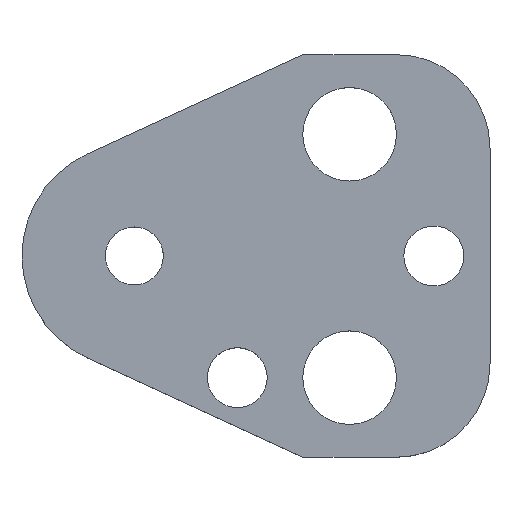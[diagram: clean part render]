
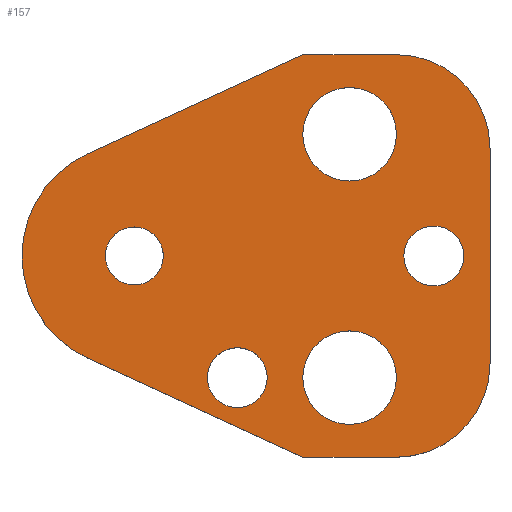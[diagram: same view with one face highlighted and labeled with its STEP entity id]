
A CAD part, top view. The second image highlights one B-rep face of the part: STEP entity #157.
In plain terms, the highlighted planar face has unit normal (0, 0, 1).
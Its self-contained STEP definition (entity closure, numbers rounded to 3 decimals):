
#103=FACE_BOUND('',#207,.T.);
#104=FACE_BOUND('',#208,.T.);
#105=FACE_BOUND('',#209,.T.);
#106=FACE_BOUND('',#210,.T.);
#107=FACE_BOUND('',#211,.T.);
#108=FACE_BOUND('',#212,.T.);
#122=CIRCLE('',#480,10.);
#124=CIRCLE('',#484,10.);
#127=CIRCLE('',#490,12.);
#138=CIRCLE('',#503,3.2);
#139=CIRCLE('',#504,3.2);
#140=CIRCLE('',#505,5.);
#141=CIRCLE('',#506,5.);
#142=CIRCLE('',#507,5.);
#143=CIRCLE('',#508,5.);
#144=CIRCLE('',#509,3.2);
#145=CIRCLE('',#510,3.2);
#146=CIRCLE('',#511,3.1);
#147=CIRCLE('',#512,3.1);
#157=ADVANCED_FACE('',(#103,#104,#105,#106,#107,#108),#174,.T.);
#174=PLANE('',#513);
#207=EDGE_LOOP('',(#273,#274,#275,#276,#277,#278,#279,#280));
#208=EDGE_LOOP('',(#281,#282));
#209=EDGE_LOOP('',(#283,#284));
#210=EDGE_LOOP('',(#285,#286));
#211=EDGE_LOOP('',(#287,#288));
#212=EDGE_LOOP('',(#289,#290));
#273=ORIENTED_EDGE('',*,*,#368,.T.);
#274=ORIENTED_EDGE('',*,*,#372,.T.);
#275=ORIENTED_EDGE('',*,*,#375,.T.);
#276=ORIENTED_EDGE('',*,*,#378,.T.);
#277=ORIENTED_EDGE('',*,*,#381,.T.);
#278=ORIENTED_EDGE('',*,*,#384,.T.);
#279=ORIENTED_EDGE('',*,*,#387,.T.);
#280=ORIENTED_EDGE('',*,*,#390,.T.);
#281=ORIENTED_EDGE('',*,*,#401,.T.);
#282=ORIENTED_EDGE('',*,*,#402,.T.);
#283=ORIENTED_EDGE('',*,*,#403,.T.);
#284=ORIENTED_EDGE('',*,*,#404,.T.);
#285=ORIENTED_EDGE('',*,*,#405,.T.);
#286=ORIENTED_EDGE('',*,*,#406,.T.);
#287=ORIENTED_EDGE('',*,*,#407,.T.);
#288=ORIENTED_EDGE('',*,*,#408,.T.);
#289=ORIENTED_EDGE('',*,*,#409,.T.);
#290=ORIENTED_EDGE('',*,*,#410,.T.);
#332=VERTEX_POINT('',#649);
#333=VERTEX_POINT('',#651);
#336=VERTEX_POINT('',#658);
#338=VERTEX_POINT('',#664);
#340=VERTEX_POINT('',#670);
#342=VERTEX_POINT('',#676);
#344=VERTEX_POINT('',#682);
#346=VERTEX_POINT('',#688);
#357=VERTEX_POINT('',#717);
#358=VERTEX_POINT('',#718);
#359=VERTEX_POINT('',#721);
#360=VERTEX_POINT('',#722);
#361=VERTEX_POINT('',#725);
#362=VERTEX_POINT('',#726);
#363=VERTEX_POINT('',#729);
#364=VERTEX_POINT('',#730);
#365=VERTEX_POINT('',#733);
#366=VERTEX_POINT('',#734);
#368=EDGE_CURVE('',#333,#332,#422,.T.);
#372=EDGE_CURVE('',#332,#336,#426,.T.);
#375=EDGE_CURVE('',#336,#338,#122,.T.);
#378=EDGE_CURVE('',#338,#340,#430,.T.);
#381=EDGE_CURVE('',#340,#342,#124,.T.);
#384=EDGE_CURVE('',#342,#344,#434,.T.);
#387=EDGE_CURVE('',#344,#346,#437,.T.);
#390=EDGE_CURVE('',#346,#333,#127,.T.);
#401=EDGE_CURVE('',#357,#358,#138,.T.);
#402=EDGE_CURVE('',#358,#357,#139,.T.);
#403=EDGE_CURVE('',#359,#360,#140,.T.);
#404=EDGE_CURVE('',#360,#359,#141,.T.);
#405=EDGE_CURVE('',#361,#362,#142,.T.);
#406=EDGE_CURVE('',#362,#361,#143,.T.);
#407=EDGE_CURVE('',#363,#364,#144,.T.);
#408=EDGE_CURVE('',#364,#363,#145,.T.);
#409=EDGE_CURVE('',#365,#366,#146,.T.);
#410=EDGE_CURVE('',#366,#365,#147,.T.);
#422=LINE('',#650,#450);
#426=LINE('',#659,#454);
#430=LINE('',#671,#458);
#434=LINE('',#683,#462);
#437=LINE('',#689,#465);
#450=VECTOR('',#527,1.);
#454=VECTOR('',#533,1.);
#458=VECTOR('',#545,1.);
#462=VECTOR('',#557,1.);
#465=VECTOR('',#562,1.);
#480=AXIS2_PLACEMENT_3D('',#665,#538,#539);
#484=AXIS2_PLACEMENT_3D('',#677,#550,#551);
#490=AXIS2_PLACEMENT_3D('',#693,#568,#569);
#503=AXIS2_PLACEMENT_3D('',#716,#594,#595);
#504=AXIS2_PLACEMENT_3D('',#719,#596,#597);
#505=AXIS2_PLACEMENT_3D('',#720,#598,#599);
#506=AXIS2_PLACEMENT_3D('',#723,#600,#601);
#507=AXIS2_PLACEMENT_3D('',#724,#602,#603);
#508=AXIS2_PLACEMENT_3D('',#727,#604,#605);
#509=AXIS2_PLACEMENT_3D('',#728,#606,#607);
#510=AXIS2_PLACEMENT_3D('',#731,#608,#609);
#511=AXIS2_PLACEMENT_3D('',#732,#610,#611);
#512=AXIS2_PLACEMENT_3D('',#735,#612,#613);
#513=AXIS2_PLACEMENT_3D('',#736,#614,#615);
#527=DIRECTION('',(0.908,-0.418,0.));
#533=DIRECTION('',(1.,0.,0.));
#538=DIRECTION('',(0.,0.,1.));
#539=DIRECTION('',(-0.707,0.707,0.));
#545=DIRECTION('',(0.,1.,0.));
#550=DIRECTION('',(0.,0.,1.));
#551=DIRECTION('',(-0.707,-0.707,0.));
#557=DIRECTION('',(-1.,0.,0.));
#562=DIRECTION('',(-0.908,-0.418,0.));
#568=DIRECTION('',(0.,0.,1.));
#569=DIRECTION('',(1.,0.,0.));
#594=DIRECTION('',(0.,0.,-1.));
#595=DIRECTION('',(-1.,0.,0.));
#596=DIRECTION('',(0.,0.,-1.));
#597=DIRECTION('',(1.,0.,0.));
#598=DIRECTION('',(0.,0.,-1.));
#599=DIRECTION('',(-1.,0.,0.));
#600=DIRECTION('',(0.,0.,-1.));
#601=DIRECTION('',(1.,0.,0.));
#602=DIRECTION('',(0.,0.,-1.));
#603=DIRECTION('',(-1.,0.,0.));
#604=DIRECTION('',(0.,0.,-1.));
#605=DIRECTION('',(1.,0.,0.));
#606=DIRECTION('',(0.,0.,-1.));
#607=DIRECTION('',(-1.,0.,0.));
#608=DIRECTION('',(0.,0.,-1.));
#609=DIRECTION('',(1.,0.,0.));
#610=DIRECTION('',(0.,0.,-1.));
#611=DIRECTION('',(-1.,0.,0.));
#612=DIRECTION('',(0.,0.,-1.));
#613=DIRECTION('',(1.,0.,0.));
#614=DIRECTION('',(0.,0.,1.));
#615=DIRECTION('',(0.908,-0.418,0.));
#649=CARTESIAN_POINT('',(18.,-21.5,5.));
#650=CARTESIAN_POINT('',(18.,-21.5,5.));
#651=CARTESIAN_POINT('',(-5.019,-10.9,5.));
#658=CARTESIAN_POINT('',(28.,-21.5,5.));
#659=CARTESIAN_POINT('',(18.,-21.5,5.));
#664=CARTESIAN_POINT('',(38.,-11.5,5.));
#665=CARTESIAN_POINT('',(28.,-11.5,5.));
#670=CARTESIAN_POINT('',(38.,11.5,5.));
#671=CARTESIAN_POINT('',(38.,11.5,5.));
#676=CARTESIAN_POINT('',(28.,21.5,5.));
#677=CARTESIAN_POINT('',(28.,11.5,5.));
#682=CARTESIAN_POINT('',(18.,21.5,5.));
#683=CARTESIAN_POINT('',(18.,21.5,5.));
#688=CARTESIAN_POINT('',(-5.019,10.9,5.));
#689=CARTESIAN_POINT('',(18.,21.5,5.));
#693=CARTESIAN_POINT('',(0.,0.,5.));
#716=CARTESIAN_POINT('',(32.,0.,5.));
#717=CARTESIAN_POINT('',(32.,3.2,5.));
#718=CARTESIAN_POINT('',(32.,-3.2,5.));
#719=CARTESIAN_POINT('',(32.,0.,5.));
#720=CARTESIAN_POINT('',(23.,13.,5.));
#721=CARTESIAN_POINT('',(23.,18.,5.));
#722=CARTESIAN_POINT('',(23.,8.,5.));
#723=CARTESIAN_POINT('',(23.,13.,5.));
#724=CARTESIAN_POINT('',(23.,-13.,5.));
#725=CARTESIAN_POINT('',(23.,-8.,5.));
#726=CARTESIAN_POINT('',(23.,-18.,5.));
#727=CARTESIAN_POINT('',(23.,-13.,5.));
#728=CARTESIAN_POINT('',(11.,-13.,5.));
#729=CARTESIAN_POINT('',(11.,-9.8,5.));
#730=CARTESIAN_POINT('',(11.,-16.2,5.));
#731=CARTESIAN_POINT('',(11.,-13.,5.));
#732=CARTESIAN_POINT('',(0.,0.,5.));
#733=CARTESIAN_POINT('',(0.,3.1,5.));
#734=CARTESIAN_POINT('',(0.,-3.1,5.));
#735=CARTESIAN_POINT('',(0.,0.,5.));
#736=CARTESIAN_POINT('',(-5.019,-10.9,5.));
